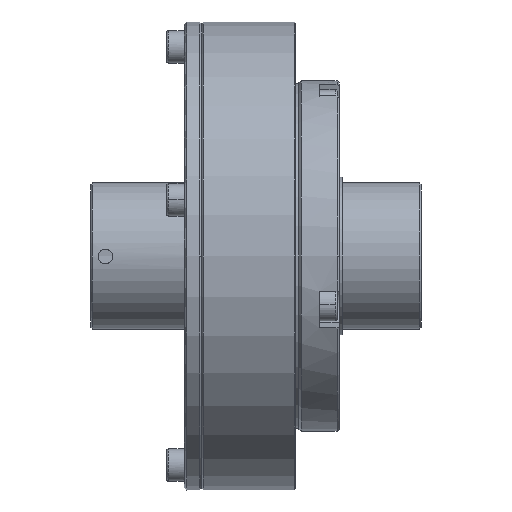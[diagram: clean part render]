
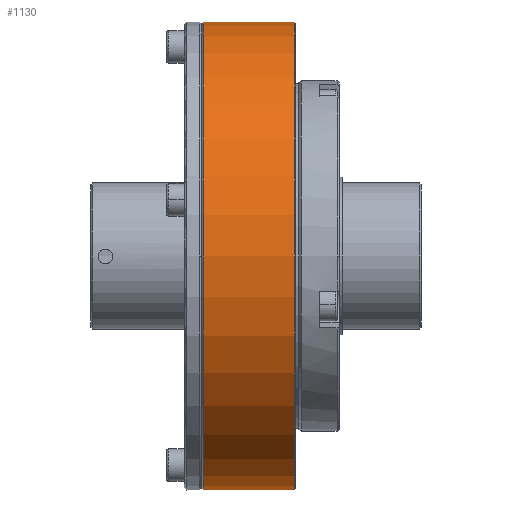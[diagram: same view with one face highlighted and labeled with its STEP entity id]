
A CAD part, front view. The second image highlights one B-rep face of the part: STEP entity #1130.
In plain terms, the highlighted cylindrical face has radius 40 mm (diameter 80 mm), a partial arc.
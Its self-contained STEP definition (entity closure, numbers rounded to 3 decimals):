
#1130=ADVANCED_FACE('NONE',(#2333),#2334,.T.);
#2333=FACE_OUTER_BOUND('',#4103,.T.);
#2334=CYLINDRICAL_SURFACE('',#4104,40.0);
#4103=EDGE_LOOP('',(#7155,#7156,#7157,#7158));
#4104=AXIS2_PLACEMENT_3D('',#7159,#7160,#7161);
#7155=ORIENTED_EDGE('',*,*,#7265,.F.);
#7156=ORIENTED_EDGE('',*,*,#8366,.T.);
#7157=ORIENTED_EDGE('',*,*,#7267,.T.);
#7158=ORIENTED_EDGE('',*,*,#8368,.T.);
#7159=CARTESIAN_POINT('',(11.0,0.0,0.0));
#7160=DIRECTION('',(-1.0,0.0,0.0));
#7161=DIRECTION('',(0.0,0.0,-1.0));
#7265=EDGE_CURVE('NONE',#8554,#8556,#8557,.T.);
#7267=EDGE_CURVE('NONE',#8553,#8558,#8560,.T.);
#8366=EDGE_CURVE('NONE',#8554,#8553,#10120,.T.);
#8368=EDGE_CURVE('NONE',#8558,#8556,#10122,.T.);
#8553=VERTEX_POINT('NONE',#11024);
#8554=VERTEX_POINT('NONE',#11025);
#8556=VERTEX_POINT('NONE',#11027);
#8557=LINE('',#11028,#11029);
#8558=VERTEX_POINT('NONE',#11030);
#8560=LINE('',#11032,#11033);
#10120=CIRCLE('',#13917,40.0);
#10122=CIRCLE('',#13919,40.0);
#11024=CARTESIAN_POINT('',(3.2,0.0,-40.));
#11025=CARTESIAN_POINT('',(3.2,0.,40.));
#11027=CARTESIAN_POINT('',(18.8,0.0,40.));
#11028=CARTESIAN_POINT('',(11.0,0.,40.0));
#11029=VECTOR('',#14096,1000.0);
#11030=CARTESIAN_POINT('',(18.8,0.,-40.));
#11032=CARTESIAN_POINT('',(11.0,0.0,-40.0));
#11033=VECTOR('',#14100,1000.0);
#13917=AXIS2_PLACEMENT_3D('',#15502,#15503,#15504);
#13919=AXIS2_PLACEMENT_3D('',#15505,#15506,#15507);
#14096=DIRECTION('',(1.0,0.0,0.0));
#14100=DIRECTION('',(1.0,0.0,0.0));
#15502=CARTESIAN_POINT('',(3.2,0.0,0.0));
#15503=DIRECTION('',(1.0,0.0,0.0));
#15504=DIRECTION('',(0.0,0.0,-1.0));
#15505=CARTESIAN_POINT('',(18.8,0.0,0.0));
#15506=DIRECTION('',(-1.0,-0.0,-0.0));
#15507=DIRECTION('',(0.0,0.0,-1.0));
